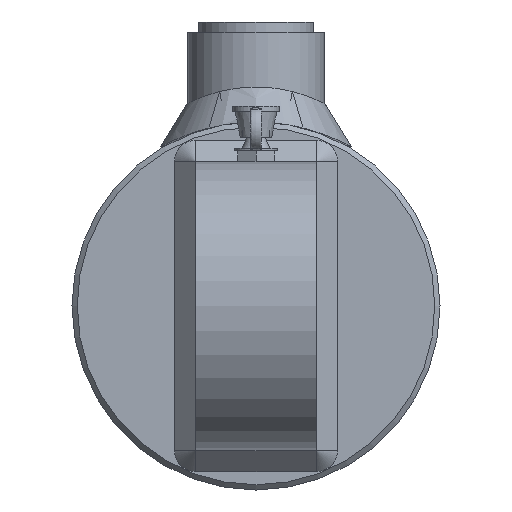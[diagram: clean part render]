
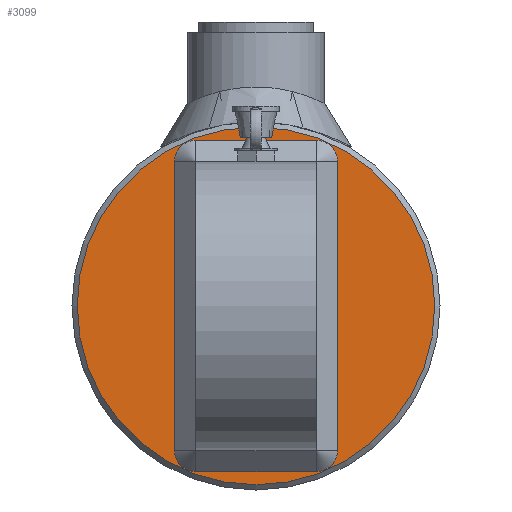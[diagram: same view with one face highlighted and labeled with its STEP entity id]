
A CAD part, left-side view. The second image highlights one B-rep face of the part: STEP entity #3099.
In plain terms, the highlighted planar face has unit normal (-1, 0, 0).
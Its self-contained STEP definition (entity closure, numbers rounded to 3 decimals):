
#3099 = ADVANCED_FACE( '', ( #7476 ), #7477, .T. );
#7476 = FACE_OUTER_BOUND( '', #9401, .T. );
#7477 = PLANE( '', #9402 );
#9401 = EDGE_LOOP( '', ( #10300 ) );
#9402 = AXIS2_PLACEMENT_3D( '', #10301, #10302, #10303 );
#10300 = ORIENTED_EDGE( '', *, *, #11476, .T. );
#10301 = CARTESIAN_POINT( '', ( -12., 0., 0. ) );
#10302 = DIRECTION( '', ( -1., 0., 0. ) );
#10303 = DIRECTION( '', ( 0., -1., 0. ) );
#11476 = EDGE_CURVE( '', #14139, #14139, #14140, .T. );
#14139 = VERTEX_POINT( '', #15111 );
#14140 = CIRCLE( '', #15112, 34. );
#15111 = CARTESIAN_POINT( '', ( -12., -34., 0. ) );
#15112 = AXIS2_PLACEMENT_3D( '', #15313, #15314, #15315 );
#15313 = CARTESIAN_POINT( '', ( -12., 0., 0. ) );
#15314 = DIRECTION( '', ( -1., 0., 0. ) );
#15315 = DIRECTION( '', ( 0., -1., 0. ) );
